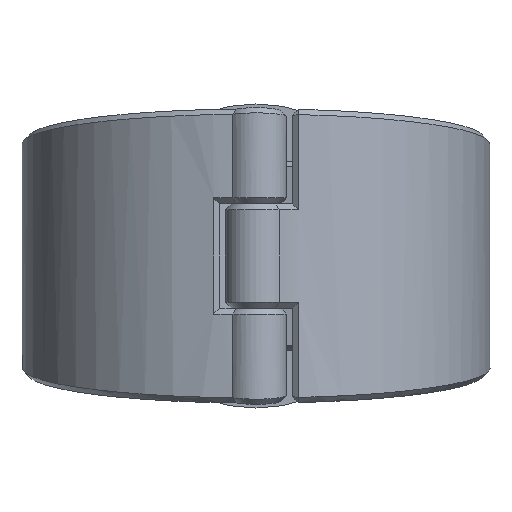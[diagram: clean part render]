
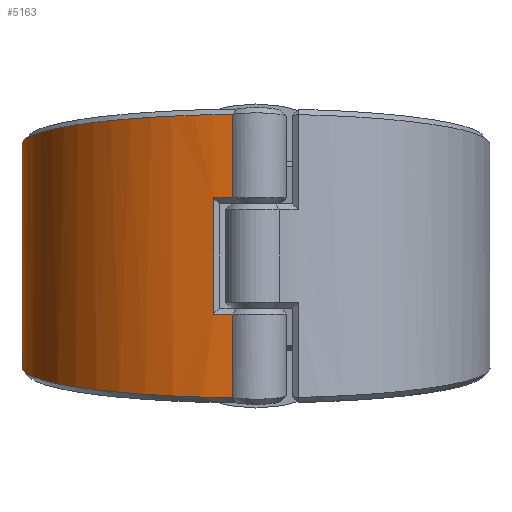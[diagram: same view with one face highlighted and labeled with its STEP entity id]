
A CAD part, front view. The second image highlights one B-rep face of the part: STEP entity #5163.
In plain terms, the highlighted cylindrical face has radius 78.5 mm (diameter 157 mm), a partial arc.
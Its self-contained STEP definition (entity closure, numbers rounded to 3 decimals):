
#171=CYLINDRICAL_SURFACE('',#5540,78.5);
#388=FACE_OUTER_BOUND('',#730,.T.);
#730=EDGE_LOOP('',(#3521,#3522,#3523,#3524,#3525,#3526,#3527,#3528,#3529,
#3530,#3531,#3532));
#1089=B_SPLINE_CURVE_WITH_KNOTS('',3,(#7728,#7729,#7730,#7731),
 .UNSPECIFIED.,.F.,.F.,(4,4),(-0.002,0.),.UNSPECIFIED.);
#1090=B_SPLINE_CURVE_WITH_KNOTS('',3,(#7733,#7734,#7735,#7736),
 .UNSPECIFIED.,.F.,.F.,(4,4),(-3.042,-3.042),
 .UNSPECIFIED.);
#1091=B_SPLINE_CURVE_WITH_KNOTS('',3,(#7738,#7739,#7740,#7741,#7742,#7743,
#7744,#7745,#7746,#7747),.UNSPECIFIED.,.F.,.F.,(4,1,1,1,1,1,1,4),(0.317,
0.63,1.034,1.438,1.842,2.246,
2.65,3.042),.UNSPECIFIED.);
#1092=B_SPLINE_CURVE_WITH_KNOTS('',3,(#7751,#7752,#7753,#7754,#7755,#7756,
#7757,#7758,#7759,#7760),.UNSPECIFIED.,.F.,.F.,(4,1,1,1,1,1,1,4),(-3.042,
-2.65,-2.246,-1.842,-1.438,
-1.034,-0.63,-0.317),.UNSPECIFIED.);
#1093=B_SPLINE_CURVE_WITH_KNOTS('',3,(#7762,#7763,#7764,#7765),
 .UNSPECIFIED.,.F.,.F.,(4,4),(3.042,3.042),
 .UNSPECIFIED.);
#1094=B_SPLINE_CURVE_WITH_KNOTS('',3,(#7767,#7768,#7769,#7770),
 .UNSPECIFIED.,.F.,.F.,(4,4),(-0.391,-0.389),
 .UNSPECIFIED.);
#1317=LINE('',#7662,#1555);
#1323=LINE('',#7726,#1561);
#1324=LINE('',#7749,#1562);
#1325=LINE('',#7771,#1563);
#1555=VECTOR('',#6155,10.);
#1561=VECTOR('',#6201,10.);
#1562=VECTOR('',#6202,10.);
#1563=VECTOR('',#6203,10.);
#1798=CIRCLE('',#5530,78.5);
#1801=CIRCLE('',#5535,78.5);
#2137=VERTEX_POINT('',#7656);
#2138=VERTEX_POINT('',#7661);
#2144=VERTEX_POINT('',#7682);
#2147=VERTEX_POINT('',#7703);
#2151=VERTEX_POINT('',#7725);
#2152=VERTEX_POINT('',#7727);
#2153=VERTEX_POINT('',#7732);
#2154=VERTEX_POINT('',#7737);
#2155=VERTEX_POINT('',#7748);
#2156=VERTEX_POINT('',#7750);
#2157=VERTEX_POINT('',#7761);
#2158=VERTEX_POINT('',#7766);
#2646=EDGE_CURVE('',#2137,#2138,#1317,.T.);
#2659=EDGE_CURVE('',#2144,#2137,#1798,.T.);
#2664=EDGE_CURVE('',#2138,#2147,#1801,.T.);
#2670=EDGE_CURVE('',#2151,#2144,#1323,.T.);
#2671=EDGE_CURVE('',#2152,#2151,#1089,.T.);
#2672=EDGE_CURVE('',#2152,#2153,#1090,.T.);
#2673=EDGE_CURVE('',#2154,#2153,#1091,.T.);
#2674=EDGE_CURVE('',#2155,#2154,#1324,.T.);
#2675=EDGE_CURVE('',#2156,#2155,#1092,.T.);
#2676=EDGE_CURVE('',#2156,#2157,#1093,.T.);
#2677=EDGE_CURVE('',#2158,#2157,#1094,.T.);
#2678=EDGE_CURVE('',#2147,#2158,#1325,.T.);
#3521=ORIENTED_EDGE('',*,*,#2664,.F.);
#3522=ORIENTED_EDGE('',*,*,#2646,.F.);
#3523=ORIENTED_EDGE('',*,*,#2659,.F.);
#3524=ORIENTED_EDGE('',*,*,#2670,.F.);
#3525=ORIENTED_EDGE('',*,*,#2671,.F.);
#3526=ORIENTED_EDGE('',*,*,#2672,.T.);
#3527=ORIENTED_EDGE('',*,*,#2673,.F.);
#3528=ORIENTED_EDGE('',*,*,#2674,.F.);
#3529=ORIENTED_EDGE('',*,*,#2675,.F.);
#3530=ORIENTED_EDGE('',*,*,#2676,.T.);
#3531=ORIENTED_EDGE('',*,*,#2677,.F.);
#3532=ORIENTED_EDGE('',*,*,#2678,.F.);
#5163=ADVANCED_FACE('',(#388),#171,.T.);
#5530=AXIS2_PLACEMENT_3D('',#7698,#6177,#6178);
#5535=AXIS2_PLACEMENT_3D('',#7712,#6187,#6188);
#5540=AXIS2_PLACEMENT_3D('',#7724,#6199,#6200);
#6155=DIRECTION('',(0.,0.,-1.));
#6177=DIRECTION('center_axis',(0.,0.,-1.));
#6178=DIRECTION('ref_axis',(0.312,-0.95,0.));
#6187=DIRECTION('center_axis',(0.,0.,1.));
#6188=DIRECTION('ref_axis',(0.312,-0.95,0.));
#6199=DIRECTION('center_axis',(0.,0.,1.));
#6200=DIRECTION('ref_axis',(-0.312,0.95,0.));
#6201=DIRECTION('',(0.,0.,-1.));
#6202=DIRECTION('',(0.,0.,1.));
#6203=DIRECTION('',(0.,0.,-1.));
#7656=CARTESIAN_POINT('',(-14.221,-77.201,19.5));
#7661=CARTESIAN_POINT('',(-14.221,-77.201,-19.5));
#7662=CARTESIAN_POINT('',(-14.221,-77.201,0.));
#7682=CARTESIAN_POINT('',(-7.767,-78.115,19.5));
#7698=CARTESIAN_POINT('Origin',(0.,0.,19.5));
#7703=CARTESIAN_POINT('',(-7.767,-78.115,-19.5));
#7712=CARTESIAN_POINT('Origin',(0.,0.,-19.5));
#7724=CARTESIAN_POINT('Origin',(0.,0.,0.));
#7725=CARTESIAN_POINT('',(-7.767,-78.115,47.539));
#7726=CARTESIAN_POINT('',(-7.767,-78.115,0.));
#7727=CARTESIAN_POINT('',(-7.754,-78.116,47.549));
#7728=CARTESIAN_POINT('Ctrl Pts',(-7.754,-78.116,47.549));
#7729=CARTESIAN_POINT('Ctrl Pts',(-7.758,-78.115,47.545));
#7730=CARTESIAN_POINT('Ctrl Pts',(-7.763,-78.115,47.542));
#7731=CARTESIAN_POINT('Ctrl Pts',(-7.767,-78.114,47.539));
#7732=CARTESIAN_POINT('',(-7.767,-78.115,47.549));
#7733=CARTESIAN_POINT('Ctrl Pts',(-7.754,-78.116,47.549));
#7734=CARTESIAN_POINT('Ctrl Pts',(-7.759,-78.116,47.549));
#7735=CARTESIAN_POINT('Ctrl Pts',(-7.763,-78.115,47.549));
#7736=CARTESIAN_POINT('Ctrl Pts',(-7.767,-78.115,47.549));
#7737=CARTESIAN_POINT('',(-24.512,74.575,27.998));
#7738=CARTESIAN_POINT('Ctrl Pts',(-24.511,74.572,27.999));
#7739=CARTESIAN_POINT('Ctrl Pts',(-32.319,72.002,28.327));
#7740=CARTESIAN_POINT('Ctrl Pts',(-49.273,63.309,29.436));
#7741=CARTESIAN_POINT('Ctrl Pts',(-69.438,41.08,32.276));
#7742=CARTESIAN_POINT('Ctrl Pts',(-79.986,10.445,36.194));
#7743=CARTESIAN_POINT('Ctrl Pts',(-77.658,-21.829,40.326));
#7744=CARTESIAN_POINT('Ctrl Pts',(-62.848,-50.55,44.009));
#7745=CARTESIAN_POINT('Ctrl Pts',(-38.227,-70.955,46.629));
#7746=CARTESIAN_POINT('Ctrl Pts',(-17.958,-77.1,47.418));
#7747=CARTESIAN_POINT('Ctrl Pts',(-7.767,-78.115,47.549));
#7748=CARTESIAN_POINT('',(-24.512,74.575,-27.998));
#7749=CARTESIAN_POINT('',(-24.512,74.575,0.));
#7750=CARTESIAN_POINT('',(-7.767,-78.115,-47.549));
#7751=CARTESIAN_POINT('Ctrl Pts',(-7.767,-78.115,-47.548));
#7752=CARTESIAN_POINT('Ctrl Pts',(-17.958,-77.1,-47.418));
#7753=CARTESIAN_POINT('Ctrl Pts',(-38.223,-70.951,-46.628));
#7754=CARTESIAN_POINT('Ctrl Pts',(-62.85,-50.553,-44.01));
#7755=CARTESIAN_POINT('Ctrl Pts',(-77.658,-21.828,-40.326));
#7756=CARTESIAN_POINT('Ctrl Pts',(-79.986,10.445,-36.194));
#7757=CARTESIAN_POINT('Ctrl Pts',(-69.438,41.08,-32.276));
#7758=CARTESIAN_POINT('Ctrl Pts',(-49.273,63.309,-29.436));
#7759=CARTESIAN_POINT('Ctrl Pts',(-32.319,72.001,-28.327));
#7760=CARTESIAN_POINT('Ctrl Pts',(-24.511,74.572,-27.999));
#7761=CARTESIAN_POINT('',(-7.754,-78.116,-47.549));
#7762=CARTESIAN_POINT('Ctrl Pts',(-7.767,-78.115,-47.548));
#7763=CARTESIAN_POINT('Ctrl Pts',(-7.763,-78.115,-47.549));
#7764=CARTESIAN_POINT('Ctrl Pts',(-7.759,-78.116,-47.549));
#7765=CARTESIAN_POINT('Ctrl Pts',(-7.754,-78.116,-47.549));
#7766=CARTESIAN_POINT('',(-7.767,-78.115,-47.539));
#7767=CARTESIAN_POINT('Ctrl Pts',(-7.767,-78.114,-47.539));
#7768=CARTESIAN_POINT('Ctrl Pts',(-7.763,-78.115,-47.542));
#7769=CARTESIAN_POINT('Ctrl Pts',(-7.758,-78.115,-47.545));
#7770=CARTESIAN_POINT('Ctrl Pts',(-7.754,-78.116,-47.549));
#7771=CARTESIAN_POINT('',(-7.767,-78.115,0.));
